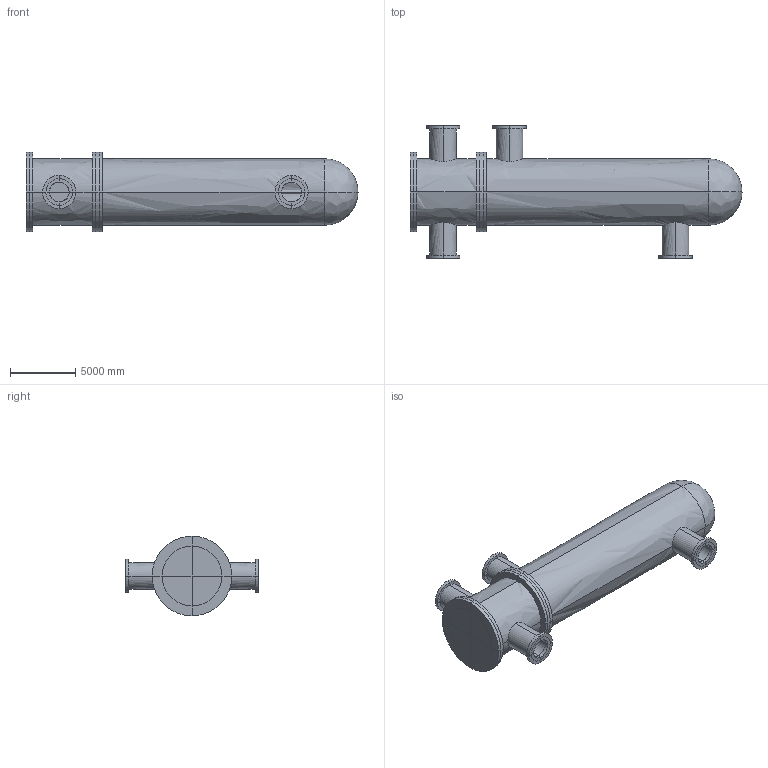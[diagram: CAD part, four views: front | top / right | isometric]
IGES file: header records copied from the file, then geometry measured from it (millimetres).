
Start section: /COM,ANSYS RELEASE  9.0    UP20041104       11:19:59    01/22/2006 /NOPR /PREP7 /TITLE, ANTYPE, 0 DOF,TEMP, BFUNIF,TEMP,_TINY KUSE,0 TIME,0.00000000 TREF,0.00000000 ALPHAD,0.00000000 BETAD,0.00000000 DMPRAT,0.00000000 CRPLIM,0.100000000,0 CRPLIM,0.00000000,1 NCNV,1,0.00000000,0,0.00000000,0.00000000 NEQIT,0 ERESX,DEFA ACEL,0.00000000,0.00000000,0.00000000 OMEGA,0.00000000,0.00000000,0.00000000,0 D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
Global section: file name: EX6-2.iges; native system: ANSYS; preprocessor:   9.0      UP20041104; date: 000122.111959
Bounding box: 25400 x 10160 x 6096 mm (x, y, z)
Volume: 133733475375.1 mm3; surface area: 1335128113.8 mm2
Topology: 88 solids, 88 shells, 658 faces, 1501 edges, 1055 vertices
Faces by surface type: bspline 658
